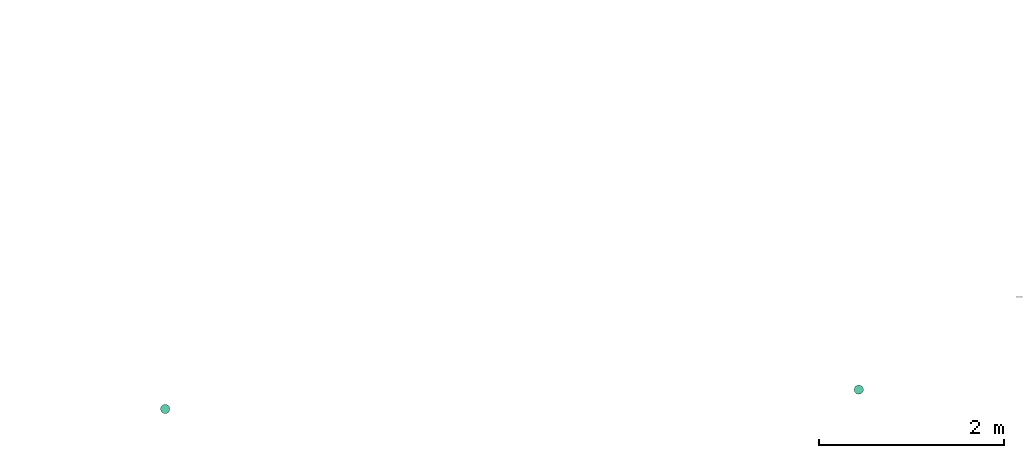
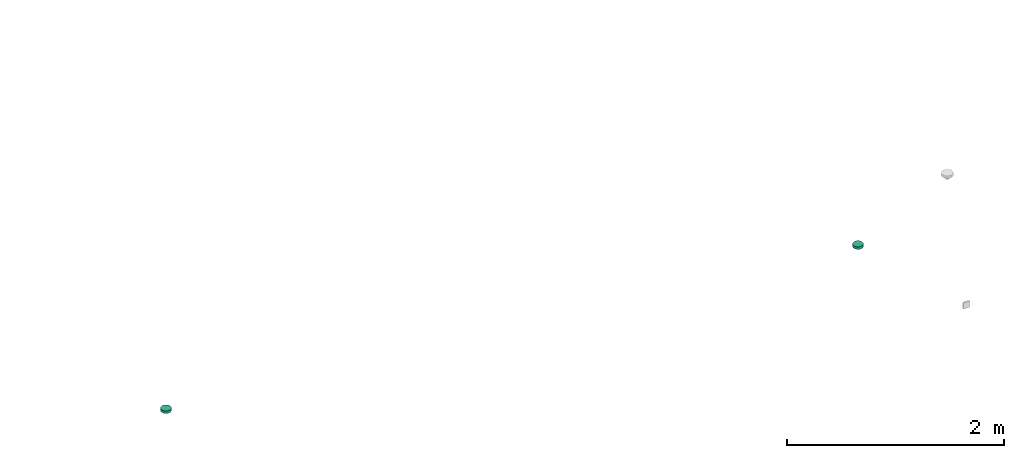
# One storey, part 1 of 10: 2 distribution control elements.
"""IFC2X3 building model written with IfcOpenShell, lengths in millimetres."""

from ifc_helpers import new_model, entity, si_unit, converted_unit, derived_unit, direction, frame, origin_with_axes, place, context, subcontext, project, spatial, open_shell, surface_model, source, transform, mapped, type_object, element, save


model = new_model("IFC2X3")

# Units and contexts
model_context = context("Model", 3, precision=0.01, world=frame((0.0, 4.29681676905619e-09, 0.0)), true_north=direction((4.01073788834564e-13, 1.0)))
plan_context = context("Plan", 3, precision=0.01, world=frame((0.0, 4.29681676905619e-09, 0.0)), true_north=direction((4.01073788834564e-13, 1.0)))
body_context = subcontext(model_context, "Body", "Model", "MODEL_VIEW")
ifc_project = project(units=[converted_unit("PLANEANGLEUNIT", "DEGREE", entity("IfcPositiveLengthMeasure", 0.0174532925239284), si_unit("PLANEANGLEUNIT", "RADIAN"), dimensions=[0, 0, 0, 0, 0, 0, 0]), si_unit("AREAUNIT", "SQUARE_METRE"), si_unit("LENGTHUNIT", "METRE", prefix="MILLI"), si_unit("MASSUNIT", "GRAM", prefix="KILO"), si_unit("POWERUNIT", "WATT"), si_unit("PRESSUREUNIT", "PASCAL"), si_unit("FORCEUNIT", "NEWTON", prefix="KILO"), si_unit("ELECTRICVOLTAGEUNIT", "VOLT"), si_unit("ELECTRICCURRENTUNIT", "AMPERE"), si_unit("THERMODYNAMICTEMPERATUREUNIT", "DEGREE_CELSIUS"), si_unit("TIMEUNIT", "SECOND"), si_unit("VOLUMEUNIT", "CUBIC_METRE"), derived_unit("LINEARVELOCITYUNIT", [(si_unit("LENGTHUNIT", "METRE"), 1), (si_unit("TIMEUNIT", "SECOND"), -1)]), derived_unit("VOLUMETRICFLOWRATEUNIT", [(si_unit("VOLUMEUNIT", "CUBIC_METRE"), 1), (si_unit("TIMEUNIT", "SECOND"), -1)]), derived_unit("THERMALTRANSMITTANCEUNIT", [(si_unit("POWERUNIT", "WATT"), 1), (si_unit("THERMODYNAMICTEMPERATUREUNIT", "KELVIN"), -1), (si_unit("AREAUNIT", "SQUARE_METRE"), -1)]), derived_unit("SOUNDPRESSUREUNIT", [(si_unit("PRESSUREUNIT", "PASCAL"), 1)])], contexts=[model_context, plan_context])

# Site, building, storey
site_placement = place(None, frame((0.0, -4.29681676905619e-09, 0.0), z_axis=(0.0, 0.0, 1.0), x_axis=(1.0, 0.0, 0.0)))
site = spatial("IfcSite", under=ifc_project, at=site_placement, Name="ENGM", CompositionType="ELEMENT")
building_placement = place(site_placement, frame((0.0, 4.29681676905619e-09, 0.0), z_axis=(0.0, 0.0, 1.0), x_axis=(1.0, 0.0, 0.0)))
building = spatial("IfcBuilding", under=site, at=building_placement, Name="TS", CompositionType="ELEMENT")
storey_placement = place(building_placement, frame((0.0, 0.0, 210900.0), z_axis=(0.0, 0.0, 1.0), x_axis=(1.0, 0.0, 0.0)))
storey = spatial("IfcBuildingStorey", under=building, at=storey_placement, Name="Nivå F", CompositionType="ELEMENT", Elevation=210900.0)

# Distribution control elements
alarm_type = type_object("IfcAlarmType", Name="Standard", PredefinedType="NOTDEFINED")
shared_shape = source(origin_with_axes(), body_context, "Body", "SurfaceModel", [
    surface_model("IfcShellBasedSurfaceModel", [(-25.0, 43.30127, -28.9), (-35.35534, 35.35534, -28.9), (-18.0, 31.17691, -28.9), (-25.45584, 25.45584, -28.9), (-9.31749, 34.77333, -28.9), (-12.94095, 48.29629, -28.9), (0.0, 36.0, -28.9), (0.0, 50.0, -28.9), (-34.77333, 9.31749, -28.9), (-43.30127, 25.0, -28.9), (-48.29629, 12.94095, -28.9), (-36.0, 0.0, -28.9), (-50.0, 0.0, -28.9), (-31.17691, 18.0, -28.9), (9.31749, 34.77333, -28.9), (12.94095, 48.29629, -28.9), (18.0, 31.17691, -28.9), (35.35534, 35.35534, -28.9), (25.0, 43.30127, -28.9), (25.45584, 25.45584, -28.9), (31.17691, 18.0, -28.9), (34.77333, 9.31749, -28.9), (43.30127, 25.0, -28.9), (48.29629, 12.94095, -28.9), (36.0, 0.0, -28.9), (50.0, 0.0, -28.9), (-34.77333, -9.31749, -28.9), (-48.29629, -12.94095, -28.9), (-31.17691, -18.0, -28.9), (-43.30127, -25.0, -28.9), (-25.45584, -25.45584, -28.9), (-35.35534, -35.35534, -28.9), (-18.0, -31.17691, -28.9), (-25.0, -43.30127, -28.9), (-9.31749, -34.77333, -28.9), (-12.94095, -48.29629, -28.9), (0.0, -36.0, -28.9), (0.0, -50.0, -28.9), (43.30127, -25.0, -28.9), (31.17691, -18.0, -28.9), (35.35534, -35.35534, -28.9), (34.77333, -9.31749, -28.9), (48.29629, -12.94095, -28.9), (25.45584, -25.45584, -28.9), (9.31749, -34.77333, -28.9), (12.94095, -48.29629, -28.9), (18.0, -31.17691, -28.9), (25.0, -43.30127, -28.9), (-25.0, -43.30127, -29.1), (-35.35534, -35.35534, -29.1), (-18.0, -31.17691, -29.1), (-25.45584, -25.45584, -29.1), (-9.31749, -34.77333, -29.1), (-12.94095, -48.29629, -29.1), (0.0, -36.0, -29.1), (0.0, -50.0, -29.1), (-34.77333, -9.31749, -29.1), (-43.30127, -25.0, -29.1), (-48.29629, -12.94095, -29.1), (-36.0, 0.0, -29.1), (-50.0, 0.0, -29.1), (-31.17691, -18.0, -29.1), (9.31749, -34.77333, -29.1), (12.94095, -48.29629, -29.1), (18.0, -31.17691, -29.1), (35.35534, -35.35534, -29.1), (25.0, -43.30127, -29.1), (25.45584, -25.45584, -29.1), (31.17691, -18.0, -29.1), (34.77333, -9.31749, -29.1), (43.30127, -25.0, -29.1), (48.29629, -12.94095, -29.1), (36.0, 0.0, -29.1), (50.0, 0.0, -29.1), (-34.77333, 9.31749, -29.1), (-48.29629, 12.94095, -29.1), (-31.17691, 18.0, -29.1), (-43.30127, 25.0, -29.1), (-25.45584, 25.45584, -29.1), (-35.35534, 35.35534, -29.1), (-18.0, 31.17691, -29.1), (-25.0, 43.30127, -29.1), (-9.31749, 34.77333, -29.1), (-12.94095, 48.29629, -29.1), (0.0, 36.0, -29.1), (0.0, 50.0, -29.1), (43.30127, 25.0, -29.1), (31.17691, 18.0, -29.1), (35.35534, 35.35534, -29.1), (34.77333, 9.31749, -29.1), (48.29629, 12.94095, -29.1), (25.45584, 25.45584, -29.1), (9.31749, 34.77333, -29.1), (12.94095, 48.29629, -29.1), (18.0, 31.17691, -29.1), (25.0, 43.30127, -29.1), (6.47048, -24.14815, -44.9), (12.5, -21.65064, -44.9), (17.67767, -17.67767, -44.9), (24.14815, -6.47048, -44.9), (-24.14815, -6.47048, -44.9), (21.65064, -12.5, -44.9), (-21.65064, 12.5, -44.9), (0.0, -25.0, -44.9), (-12.5, -21.65064, -44.9), (-6.47048, -24.14815, -44.9), (-17.67767, -17.67767, -44.9), (-21.65064, -12.5, -44.9), (25.0, 0.0, -44.9), (24.14815, 6.47048, -44.9), (21.65064, 12.5, -44.9), (17.67767, 17.67767, -44.9), (12.5, 21.65064, -44.9), (6.47048, 24.14815, -44.9), (0.0, 25.0, -44.9), (-25.0, 0.0, -44.9), (-24.14815, 6.47048, -44.9), (-12.5, 21.65064, -44.9), (-17.67767, 17.67767, -44.9), (-6.47048, 24.14815, -44.9), (0.0, 25.0, -45.1), (6.47048, 24.14815, -45.1), (12.5, 21.65064, -45.1), (-21.65064, 12.5, -45.1), (17.67767, 17.67767, -45.1), (21.65064, 12.5, -45.1), (24.14815, 6.47048, -45.1), (-12.5, 21.65064, -45.1), (-17.67767, 17.67767, -45.1), (-6.47048, 24.14815, -45.1), (-25.0, 0.0, -45.1), (-24.14815, 6.47048, -45.1), (-24.14815, -6.47048, -45.1), (24.14815, -6.47048, -45.1), (6.47048, -24.14815, -45.1), (21.65064, -12.5, -45.1), (17.67767, -17.67767, -45.1), (12.5, -21.65064, -45.1), (-12.5, -21.65064, -45.1), (-17.67767, -17.67767, -45.1), (-21.65064, -12.5, -45.1), (0.0, -25.0, -45.1), (-6.47048, -24.14815, -45.1), (25.0, 0.0, -45.1), (-1.46739, 34.60682, -29.0), (0.0, 34.8, -29.0), (0.0, 35.0, -29.0), (-34.60682, 1.46739, -29.0), (-35.0, 0.0, -29.0), (-34.8, 0.0, -29.0), (-17.5, 30.31089, -29.0), (-18.5742, 29.23669, -29.0), (-17.4, 30.13768, -29.0), (-24.60732, -24.60732, -29.0), (-18.5742, -29.23669, -29.0), (-29.23669, -18.5742, -29.0), (34.8, 0.0, -29.0), (34.60682, -1.46739, -29.0), (35.0, 0.0, -29.0), (17.4, 30.13768, -29.0), (17.5, 30.31089, -29.0), (16.03261, 30.70407, -29.0), (30.13768, 17.4, -29.0), (30.31089, 17.5, -29.0), (29.23669, 18.5742, -29.0), (34.60682, 1.46739, -29.0), (33.61422, -9.0069, -29.0), (30.70407, -16.03261, -29.0), (-33.61422, -9.0069, -29.0), (-30.70407, -16.03261, -29.0), (-34.60682, -1.46739, -29.0), (-30.13768, -17.4, -29.0), (-30.31089, -17.5, -29.0), (-17.5, -30.31089, -29.0), (-17.4, -30.13768, -29.0), (-1.46739, -34.60682, -29.0), (0.0, -35.0, -29.0), (0.0, -34.8, -29.0), (-16.03261, -30.70407, -29.0), (-9.0069, -33.61422, -29.0), (1.46739, -34.60682, -29.0), (30.13768, -17.4, -29.0), (29.23669, -18.5742, -29.0), (30.31089, -17.5, -29.0), (24.60732, -24.60732, -29.0), (18.5742, -29.23669, -29.0), (9.0069, -33.61422, -29.0), (16.03261, -30.70407, -29.0), (-30.13768, 17.4, -29.0), (-30.31089, 17.5, -29.0), (-30.70407, 16.03261, -29.0), (17.4, -30.13768, -29.0), (17.5, -30.31089, -29.0), (-33.61422, 9.0069, -29.0), (-29.23669, 18.5742, -29.0), (-24.60732, 24.60732, -29.0), (-16.03261, 30.70407, -29.0), (-9.0069, 33.61422, -29.0), (1.46739, 34.60682, -29.0), (9.0069, 33.61422, -29.0), (18.5742, 29.23669, -29.0), (24.60732, 24.60732, -29.0), (30.70407, 16.03261, -29.0), (33.61422, 9.0069, -29.0), (23.00389, 18.55381, -38.25), (14.9, 25.80756, -38.25), (21.07178, 21.07178, -38.25), (29.66376, 1.03484, -38.25), (30.0, 0.0, -38.25), (29.8, 0.0, -38.25), (24.27051, 17.63356, -38.25), (24.68215, 16.36666, -38.25), (10.52665, 27.61906, -38.25), (28.78459, 7.71281, -38.25), (-10.52665, 27.61906, -38.25), (-23.00389, 18.55381, -38.25), (-14.9, 25.80756, -38.25), (8.32335, 28.5317, -38.25), (0.0, 29.8, -38.25), (7.71281, 28.78459, -38.25), (-8.32335, 28.5317, -38.25), (-24.68215, 16.36666, -38.25), (-28.78459, 7.71281, -38.25), (-25.80756, 14.9, -38.25), (-9.27051, 28.5317, -38.25), (-29.66376, 1.03484, -38.25), (-29.8, 0.0, -38.25), (-30.0, 0.0, -38.25), (-28.78459, -7.71281, -38.25), (-24.68215, -16.36666, -38.25), (-25.80756, -14.9, -38.25), (29.66376, -1.03484, -38.25), (-7.71281, 28.78459, -38.25), (25.80756, 14.9, -38.25), (14.9, -25.80756, -38.25), (10.52665, -27.61906, -38.25), (23.00389, -18.55381, -38.25), (28.78459, -7.71281, -38.25), (24.68215, -16.36666, -38.25), (0.0, -29.8, -38.25), (-7.71281, -28.78459, -38.25), (-8.32335, -28.5317, -38.25), (8.32335, -28.5317, -38.25), (9.27051, 28.5317, -38.25), (-29.66376, -1.03484, -38.25), (21.07178, -21.07178, -38.25), (-23.00389, -18.55381, -38.25), (-24.27051, -17.63356, -38.25), (-9.27051, -28.5317, -38.25), (-10.52665, -27.61906, -38.25), (-21.07178, -21.07178, -38.25), (-14.9, -25.80756, -38.25), (9.27051, -28.5317, -38.25), (7.71281, -28.78459, -38.25), (24.27051, -17.63356, -38.25), (25.80756, -14.9, -38.25), (-21.07178, 21.07178, -38.25), (-24.27051, 17.63356, -38.25), (33.28589, -6.39713, -29.0), (27.13526, -8.81678, -38.25), (-16.77051, -23.08263, -38.25), (-23.90544, -23.90544, -29.0), (-27.13526, -8.81678, -38.25), (-33.28589, -6.39713, -29.0), (16.77051, -23.08263, -38.25), (8.75, -32.65544, -29.0), (0.0, -28.5317, -38.25), (23.90544, -23.90544, -29.0), (-8.75, -32.65544, -29.0), (-33.28589, 6.39713, -29.0), (-27.13526, 8.81678, -38.25), (16.77051, 23.08263, -38.25), (23.90544, 23.90544, -29.0), (27.13526, 8.81678, -38.25), (33.28589, 6.39713, -29.0), (-16.77051, 23.08263, -38.25), (-8.75, 32.65544, -29.0), (0.0, 28.5317, -38.25), (-23.90544, 23.90544, -29.0), (8.75, 32.65544, -29.0), (12.4, 21.47743, -45.0), (17.53625, 17.53625, -45.0), (19.07577, 15.5299, -45.0), (20.22543, 14.69463, -45.0), (20.59905, 13.54472, -45.0), (24.66376, 1.03484, -45.0), (25.0, 0.0, -45.0), (24.8, 0.0, -45.0), (8.88673, 22.93267, -45.0), (23.95496, 6.41871, -45.0), (-8.88673, 22.93267, -45.0), (-19.07577, 15.5299, -45.0), (-12.4, 21.47743, -45.0), (6.84976, 23.77641, -45.0), (0.0, 24.8, -45.0), (6.41871, 23.95496, -45.0), (-7.72542, 23.77641, -45.0), (-6.84976, 23.77641, -45.0), (-21.47743, 12.4, -45.0), (-20.59905, 13.54472, -45.0), (-23.95496, 6.41871, -45.0), (-25.0, 0.0, -45.0), (-24.66376, 1.03484, -45.0), (-24.8, 0.0, -45.0), (-23.95496, -6.41871, -45.0), (-20.59905, -13.54472, -45.0), (-21.47743, -12.4, -45.0), (-6.41871, 23.95496, -45.0), (24.66376, -1.03484, -45.0), (21.47743, 12.4, -45.0), (12.4, -21.47743, -45.0), (8.88673, -22.93267, -45.0), (19.07577, -15.5299, -45.0), (23.95496, -6.41871, -45.0), (20.59905, -13.54472, -45.0), (0.0, -24.8, -45.0), (-6.41871, -23.95496, -45.0), (-6.84976, -23.77641, -45.0), (7.72542, -23.77641, -45.0), (6.84976, -23.77641, -45.0), (7.72542, 23.77641, -45.0), (-24.66376, -1.03484, -45.0), (17.53625, -17.53625, -45.0), (-20.22543, -14.69463, -45.0), (-19.07577, -15.5299, -45.0), (-8.88673, -22.93267, -45.0), (-7.72542, -23.77641, -45.0), (-17.53625, -17.53625, -45.0), (-12.4, -21.47743, -45.0), (6.41871, -23.95496, -45.0), (20.22543, -14.69463, -45.0), (21.47743, -12.4, -45.0), (-17.53625, 17.53625, -45.0), (-20.22543, 14.69463, -45.0), (-22.61271, -7.34732, -45.0), (-13.97542, -19.23552, -45.0), (0.0, -23.77641, -45.0), (21.83768, -9.73262, -45.0), (13.97542, -19.23552, -45.0), (23.41884, -4.86631, -45.0), (22.61271, 7.34732, -45.0), (13.97542, 19.23552, -45.0), (0.0, 23.77641, -45.0), (-21.83768, 9.73262, -45.0), (-13.97542, 19.23552, -45.0), (-23.41884, 4.86631, -45.0), (12.94095, -48.29629, 0.0), (25.0, -43.30127, 0.0), (35.35534, -35.35534, 0.0), (48.29629, -12.94095, 0.0), (-48.29629, -12.94095, 0.0), (43.30127, -25.0, 0.0), (-43.30127, 25.0, 0.0), (0.0, -50.0, 0.0), (-25.0, -43.30127, 0.0), (-12.94095, -48.29629, 0.0), (-35.35534, -35.35534, 0.0), (-43.30127, -25.0, 0.0), (50.0, 0.0, 0.0), (48.29629, 12.94095, 0.0), (43.30127, 25.0, 0.0), (35.35534, 35.35534, 0.0), (25.0, 43.30127, 0.0), (12.94095, 48.29629, 0.0), (0.0, 50.0, 0.0), (-50.0, 0.0, 0.0), (-48.29629, 12.94095, 0.0), (-25.0, 43.30127, 0.0), (-35.35534, 35.35534, 0.0), (-12.94095, 48.29629, 0.0), (0.0, 50.0, -29.0), (12.94095, 48.29629, -29.0), (25.0, 43.30127, -29.0), (-43.30127, 25.0, -29.0), (35.35534, 35.35534, -29.0), (43.30127, 25.0, -29.0), (48.29629, 12.94095, -29.0), (-25.0, 43.30127, -29.0), (-35.35534, 35.35534, -29.0), (-12.94095, 48.29629, -29.0), (-50.0, 0.0, -29.0), (-48.29629, 12.94095, -29.0), (-48.29629, -12.94095, -29.0), (48.29629, -12.94095, -29.0), (12.94095, -48.29629, -29.0), (43.30127, -25.0, -29.0), (35.35534, -35.35534, -29.0), (25.0, -43.30127, -29.0), (-25.0, -43.30127, -29.0), (-35.35534, -35.35534, -29.0), (-43.30127, -25.0, -29.0), (0.0, -50.0, -29.0), (-12.94095, -48.29629, -29.0), (50.0, 0.0, -29.0)], [open_shell([[[0, 1, 2]], [[2, 1, 3]], [[0, 2, 4]], [[5, 4, 6]], [[4, 5, 0]], [[5, 6, 7]], [[8, 9, 10]], [[11, 10, 12]], [[8, 10, 11]], [[13, 3, 9]], [[8, 13, 9]], [[9, 3, 1]], [[7, 14, 15]], [[14, 7, 6]], [[15, 14, 16]], [[17, 18, 19]], [[16, 18, 15]], [[19, 18, 16]], [[20, 21, 22]], [[20, 22, 17]], [[21, 23, 22]], [[23, 21, 24]], [[23, 24, 25]], [[20, 17, 19]], [[26, 12, 27]], [[28, 27, 29]], [[28, 26, 27]], [[30, 28, 29]], [[29, 31, 30]], [[32, 31, 33]], [[31, 32, 30]], [[32, 33, 34]], [[34, 35, 36]], [[35, 34, 33]], [[36, 35, 37]], [[38, 39, 40]], [[41, 39, 42]], [[41, 42, 25]], [[42, 39, 38]], [[39, 43, 40]], [[25, 24, 41]], [[44, 37, 45]], [[37, 44, 36]], [[44, 45, 46]], [[47, 40, 43]], [[47, 46, 45]], [[47, 43, 46]], [[26, 11, 12]], [[48, 49, 50]], [[50, 49, 51]], [[48, 50, 52]], [[53, 52, 54]], [[52, 53, 48]], [[53, 54, 55]], [[56, 57, 58]], [[59, 58, 60]], [[56, 58, 59]], [[61, 51, 57]], [[56, 61, 57]], [[57, 51, 49]], [[55, 62, 63]], [[62, 55, 54]], [[63, 62, 64]], [[65, 66, 67]], [[64, 66, 63]], [[67, 66, 64]], [[68, 69, 70]], [[68, 70, 65]], [[69, 71, 70]], [[71, 69, 72]], [[71, 72, 73]], [[68, 65, 67]], [[74, 60, 75]], [[76, 75, 77]], [[76, 74, 75]], [[78, 76, 77]], [[77, 79, 78]], [[80, 79, 81]], [[79, 80, 78]], [[80, 81, 82]], [[82, 83, 84]], [[83, 82, 81]], [[84, 83, 85]], [[86, 87, 88]], [[89, 87, 90]], [[89, 90, 73]], [[90, 87, 86]], [[87, 91, 88]], [[73, 72, 89]], [[92, 85, 93]], [[85, 92, 84]], [[92, 93, 94]], [[95, 88, 91]], [[95, 94, 93]], [[95, 91, 94]], [[74, 59, 60]], [[11, 59, 8]], [[8, 74, 13]], [[2, 3, 78]], [[76, 3, 13]], [[4, 2, 80]], [[74, 76, 13]], [[8, 59, 74]], [[84, 6, 82]], [[4, 80, 82]], [[80, 2, 78]], [[3, 76, 78]], [[4, 82, 6]], [[14, 92, 16]], [[16, 94, 19]], [[21, 20, 87]], [[91, 20, 19]], [[24, 21, 89]], [[92, 94, 16]], [[14, 84, 92]], [[21, 87, 89]], [[87, 20, 91]], [[19, 94, 91]], [[24, 89, 72]], [[6, 84, 14]], [[24, 72, 41]], [[41, 69, 39]], [[46, 43, 67]], [[68, 43, 39]], [[44, 46, 64]], [[69, 68, 39]], [[41, 72, 69]], [[54, 36, 62]], [[44, 64, 62]], [[64, 46, 67]], [[43, 68, 67]], [[44, 62, 36]], [[34, 52, 32]], [[32, 50, 30]], [[26, 28, 61]], [[51, 28, 30]], [[11, 26, 56]], [[52, 50, 32]], [[34, 54, 52]], [[26, 61, 56]], [[61, 28, 51]], [[30, 50, 51]], [[11, 56, 59]], [[36, 54, 34]], [[58, 27, 60]], [[57, 29, 58]], [[33, 49, 48]], [[57, 49, 31]], [[35, 48, 53]], [[58, 29, 27]], [[27, 12, 60]], [[35, 33, 48]], [[31, 49, 33]], [[31, 29, 57]], [[37, 35, 53]], [[53, 55, 37]], [[63, 45, 55]], [[66, 47, 63]], [[38, 65, 70]], [[66, 65, 40]], [[42, 70, 71]], [[66, 40, 47]], [[47, 45, 63]], [[25, 42, 71]], [[38, 70, 42]], [[38, 40, 65]], [[73, 25, 71]], [[55, 45, 37]], [[90, 23, 73]], [[86, 22, 90]], [[18, 88, 95]], [[86, 88, 17]], [[15, 95, 93]], [[90, 22, 23]], [[23, 25, 73]], [[15, 18, 95]], [[17, 88, 18]], [[17, 22, 86]], [[7, 15, 93]], [[93, 85, 7]], [[83, 5, 85]], [[81, 0, 83]], [[9, 79, 77]], [[81, 79, 1]], [[10, 77, 75]], [[81, 1, 0]], [[0, 5, 83]], [[12, 10, 75]], [[9, 77, 10]], [[9, 1, 79]], [[60, 12, 75]], [[85, 5, 7]], [[96, 97, 98]], [[96, 98, 99]], [[96, 99, 100]], [[99, 98, 101]], [[102, 100, 99]], [[103, 104, 105]], [[103, 96, 104]], [[106, 100, 107]], [[106, 104, 96]], [[100, 106, 96]], [[99, 108, 102]], [[109, 110, 111]], [[109, 111, 112]], [[112, 113, 114]], [[109, 112, 102]], [[102, 112, 114]], [[115, 102, 116]], [[100, 102, 115]], [[102, 117, 118]], [[117, 102, 119]], [[114, 119, 102]], [[102, 108, 109]], [[120, 121, 122]], [[123, 120, 122]], [[124, 125, 126]], [[124, 126, 122]], [[123, 122, 126]], [[127, 123, 128]], [[123, 127, 129]], [[123, 130, 131]], [[123, 129, 120]], [[123, 132, 130]], [[123, 126, 133]], [[132, 123, 133]], [[134, 133, 135]], [[136, 137, 134]], [[136, 134, 135]], [[138, 133, 134]], [[132, 139, 140]], [[132, 133, 139]], [[138, 141, 142]], [[139, 133, 138]], [[134, 141, 138]], [[133, 126, 143]], [[132, 100, 130]], [[140, 107, 132]], [[104, 139, 138]], [[140, 139, 106]], [[105, 138, 142]], [[132, 107, 100]], [[100, 115, 130]], [[105, 104, 138]], [[106, 139, 104]], [[106, 107, 140]], [[103, 105, 142]], [[142, 141, 103]], [[134, 96, 141]], [[137, 97, 134]], [[101, 136, 135]], [[137, 136, 98]], [[99, 135, 133]], [[137, 98, 97]], [[97, 96, 134]], [[108, 99, 133]], [[101, 135, 99]], [[101, 98, 136]], [[143, 108, 133]], [[141, 96, 103]], [[126, 109, 143]], [[125, 110, 126]], [[112, 124, 122]], [[125, 124, 111]], [[113, 122, 121]], [[126, 110, 109]], [[109, 108, 143]], [[113, 112, 122]], [[111, 124, 112]], [[111, 110, 125]], [[114, 113, 121]], [[121, 120, 114]], [[129, 119, 120]], [[127, 117, 129]], [[102, 128, 123]], [[127, 128, 118]], [[116, 123, 131]], [[127, 118, 117]], [[117, 119, 129]], [[115, 116, 131]], [[102, 123, 116]], [[102, 118, 128]], [[130, 115, 131]], [[120, 119, 114]], [[144, 145, 146]], [[147, 148, 149]], [[150, 151, 152]], [[153, 154, 155]], [[156, 157, 158]], [[159, 160, 161]], [[162, 163, 164]], [[156, 158, 165]], [[166, 157, 167]], [[168, 169, 170]], [[170, 149, 148]], [[171, 169, 172]], [[173, 174, 154]], [[175, 176, 177]], [[174, 173, 178]], [[155, 171, 172]], [[179, 175, 178]], [[180, 177, 176]], [[181, 182, 183]], [[181, 183, 167]], [[184, 182, 185]], [[186, 187, 180]], [[188, 189, 190]], [[191, 192, 185]], [[191, 187, 192]], [[193, 147, 190]], [[188, 194, 189]], [[195, 194, 151]], [[152, 196, 150]], [[197, 196, 144]], [[145, 198, 146]], [[199, 198, 161]], [[159, 200, 160]], [[201, 200, 164]], [[162, 202, 163]], [[203, 202, 165]], [[204, 205, 206]], [[207, 208, 209]], [[204, 210, 211]], [[205, 204, 212]], [[213, 207, 211]], [[214, 215, 216]], [[217, 218, 219]], [[218, 217, 220]], [[221, 222, 223]], [[220, 214, 224]], [[225, 226, 227]], [[228, 229, 230]], [[209, 208, 231]], [[218, 220, 232]], [[213, 211, 233]], [[234, 235, 236]], [[237, 238, 231]], [[239, 240, 241]], [[241, 242, 239]], [[243, 212, 217]], [[227, 226, 244]], [[234, 236, 245]], [[229, 246, 247]], [[241, 248, 249]], [[250, 246, 251]], [[228, 244, 229]], [[235, 252, 242]], [[239, 242, 253]], [[236, 238, 254]], [[238, 237, 255]], [[251, 246, 249]], [[216, 215, 256]], [[215, 221, 257]], [[222, 221, 225]], [[208, 158, 258]], [[183, 259, 258]], [[260, 261, 247]], [[172, 262, 247]], [[263, 227, 262]], [[192, 252, 264]], [[260, 248, 173]], [[261, 260, 173]], [[252, 265, 266]], [[227, 263, 148]], [[172, 263, 262]], [[258, 259, 208]], [[254, 267, 264]], [[268, 173, 248]], [[252, 192, 265]], [[192, 264, 267]], [[267, 254, 183]], [[259, 183, 254]], [[268, 266, 176]], [[265, 176, 266]], [[248, 266, 268]], [[172, 247, 261]], [[227, 148, 269]], [[189, 270, 269]], [[271, 272, 210]], [[163, 273, 210]], [[274, 208, 273]], [[150, 224, 275]], [[271, 243, 160]], [[272, 271, 160]], [[224, 276, 277]], [[208, 274, 158]], [[163, 274, 273]], [[269, 270, 227]], [[257, 278, 275]], [[279, 160, 243]], [[224, 150, 276]], [[150, 275, 278]], [[278, 257, 189]], [[270, 189, 257]], [[279, 277, 146]], [[276, 146, 277]], [[243, 277, 279]], [[163, 210, 272]], [[171, 230, 228]], [[168, 228, 226]], [[179, 240, 251]], [[174, 251, 250]], [[153, 250, 230]], [[168, 171, 228]], [[226, 149, 168]], [[251, 174, 179]], [[174, 250, 153]], [[230, 171, 153]], [[240, 179, 177]], [[177, 239, 240]], [[184, 245, 234]], [[191, 234, 253]], [[156, 209, 237]], [[166, 237, 255]], [[181, 255, 245]], [[239, 186, 253]], [[186, 191, 253]], [[177, 186, 239]], [[184, 181, 245]], [[191, 184, 234]], [[181, 166, 255]], [[166, 156, 237]], [[162, 233, 213]], [[203, 213, 209]], [[199, 219, 205]], [[159, 205, 206]], [[201, 206, 233]], [[203, 162, 213]], [[209, 156, 203]], [[205, 159, 199]], [[159, 206, 201]], [[233, 162, 201]], [[219, 199, 145]], [[145, 218, 219]], [[195, 256, 216]], [[152, 216, 232]], [[149, 226, 222]], [[193, 222, 223]], [[188, 223, 256]], [[218, 197, 232]], [[197, 152, 232]], [[145, 197, 218]], [[195, 188, 256]], [[152, 195, 216]], [[188, 193, 223]], [[193, 149, 222]], [[215, 216, 256]], [[221, 222, 225]], [[225, 227, 226]], [[257, 221, 215]], [[216, 215, 214]], [[212, 204, 205]], [[220, 218, 232]], [[218, 220, 217]], [[217, 212, 243]], [[233, 211, 213]], [[208, 207, 209]], [[237, 238, 255]], [[252, 235, 242]], [[218, 217, 219]], [[227, 244, 226]], [[222, 221, 223]], [[228, 229, 244]], [[239, 253, 242]], [[246, 251, 249]], [[249, 248, 241]], [[231, 238, 237]], [[208, 209, 231]], [[251, 246, 250]], [[254, 238, 236]], [[236, 234, 245]], [[214, 220, 224]], [[242, 241, 239]], [[239, 241, 240]], [[246, 229, 247]], [[230, 229, 228]], [[234, 236, 235]], [[205, 204, 206]], [[204, 211, 210]], [[213, 211, 207]], [[280, 281, 282]], [[282, 283, 284]], [[285, 286, 287]], [[280, 282, 288]], [[289, 285, 284]], [[290, 291, 292]], [[293, 294, 295]], [[290, 296, 297]], [[294, 293, 297]], [[298, 299, 300]], [[301, 302, 303]], [[304, 305, 306]], [[294, 297, 307]], [[308, 287, 286]], [[289, 284, 309]], [[310, 311, 312]], [[313, 314, 308]], [[315, 316, 317]], [[311, 318, 319]], [[293, 320, 288]], [[301, 303, 321]], [[310, 312, 322]], [[323, 305, 324]], [[325, 317, 326]], [[327, 324, 328]], [[304, 321, 305]], [[317, 319, 315]], [[315, 319, 329]], [[312, 314, 330]], [[331, 314, 313]], [[328, 324, 325]], [[292, 291, 332]], [[291, 299, 333]], [[300, 299, 302]], [[262, 301, 334]], [[334, 323, 247]], [[248, 335, 326]], [[301, 262, 227]], [[334, 247, 262]], [[260, 323, 335]], [[266, 248, 326]], [[336, 252, 266]], [[252, 336, 318]], [[323, 260, 247]], [[248, 260, 335]], [[254, 337, 259]], [[318, 264, 252]], [[338, 254, 264]], [[339, 286, 208]], [[264, 318, 338]], [[259, 339, 208]], [[338, 330, 254]], [[266, 326, 336]], [[259, 337, 339]], [[337, 254, 330]], [[273, 286, 340]], [[340, 283, 210]], [[243, 341, 320]], [[286, 273, 208]], [[340, 210, 273]], [[271, 283, 341]], [[277, 243, 320]], [[342, 224, 277]], [[224, 342, 296]], [[283, 271, 210]], [[243, 271, 341]], [[257, 343, 270]], [[296, 275, 224]], [[344, 257, 275]], [[345, 301, 227]], [[275, 296, 344]], [[270, 345, 227]], [[344, 333, 257]], [[277, 320, 342]], [[270, 343, 345]], [[343, 257, 333]], [[230, 306, 304]], [[228, 304, 303]], [[240, 316, 328]], [[251, 328, 327]], [[250, 327, 306]], [[228, 230, 304]], [[303, 226, 228]], [[328, 251, 240]], [[251, 327, 250]], [[306, 230, 250]], [[316, 240, 239]], [[239, 315, 316]], [[245, 322, 310]], [[234, 310, 329]], [[209, 287, 313]], [[237, 313, 331]], [[255, 331, 322]], [[315, 253, 329]], [[253, 234, 329]], [[239, 253, 315]], [[255, 322, 245]], [[234, 245, 310]], [[331, 255, 237]], [[237, 209, 313]], [[233, 309, 289]], [[213, 289, 287]], [[219, 295, 280]], [[205, 280, 281]], [[206, 281, 309]], [[213, 233, 289]], [[287, 209, 213]], [[280, 205, 219]], [[205, 281, 206]], [[309, 233, 206]], [[295, 219, 218]], [[218, 294, 295]], [[256, 332, 292]], [[216, 292, 307]], [[226, 303, 300]], [[222, 300, 298]], [[223, 298, 332]], [[294, 232, 307]], [[232, 216, 307]], [[218, 232, 294]], [[223, 332, 256]], [[216, 256, 292]], [[298, 223, 222]], [[222, 226, 300]], [[346, 347, 348]], [[346, 348, 349]], [[346, 349, 350]], [[349, 348, 351]], [[352, 350, 349]], [[353, 354, 355]], [[353, 346, 354]], [[356, 350, 357]], [[356, 354, 346]], [[350, 356, 346]], [[349, 358, 352]], [[359, 360, 361]], [[359, 361, 362]], [[362, 363, 364]], [[359, 362, 352]], [[352, 362, 364]], [[365, 352, 366]], [[350, 352, 365]], [[352, 367, 368]], [[367, 352, 369]], [[364, 369, 352]], [[352, 358, 359]], [[370, 371, 372]], [[373, 370, 372]], [[374, 375, 376]], [[374, 376, 372]], [[373, 372, 376]], [[377, 373, 378]], [[373, 377, 379]], [[373, 380, 381]], [[373, 379, 370]], [[373, 382, 380]], [[373, 376, 383]], [[382, 373, 383]], [[384, 383, 385]], [[386, 387, 384]], [[386, 384, 385]], [[388, 383, 384]], [[382, 389, 390]], [[382, 383, 389]], [[388, 391, 392]], [[389, 383, 388]], [[384, 391, 388]], [[383, 376, 393]], [[382, 350, 380]], [[390, 357, 382]], [[354, 389, 388]], [[390, 389, 356]], [[355, 388, 392]], [[382, 357, 350]], [[350, 365, 380]], [[355, 354, 388]], [[356, 389, 354]], [[356, 357, 390]], [[353, 355, 392]], [[392, 391, 353]], [[384, 346, 391]], [[387, 347, 384]], [[351, 386, 385]], [[387, 386, 348]], [[349, 385, 383]], [[387, 348, 347]], [[347, 346, 384]], [[358, 349, 383]], [[351, 385, 349]], [[351, 348, 386]], [[393, 358, 383]], [[391, 346, 353]], [[376, 359, 393]], [[375, 360, 376]], [[362, 374, 372]], [[375, 374, 361]], [[363, 372, 371]], [[376, 360, 359]], [[359, 358, 393]], [[363, 362, 372]], [[361, 374, 362]], [[361, 360, 375]], [[364, 363, 371]], [[371, 370, 364]], [[369, 370, 379]], [[367, 379, 377]], [[352, 373, 381]], [[366, 381, 380]], [[379, 367, 369]], [[367, 377, 378]], [[367, 378, 368]], [[368, 378, 352]], [[352, 378, 373]], [[352, 381, 366]], [[380, 365, 366]], [[370, 369, 364]]])]),
])
for number, where, z_axis, x_axis, name in (
    (1, (533793.77251, 442015.14805, 2900.0), (0.0, 0.0, 1.0), (1.0, 0.0, 0.0), "Standard"),
    (2, (526306.96771, 441806.76548, 3800.0), (0.0, 0.0, 1.0), (1.0, 0.0, 0.0), "Standard"),
):
    element("IfcDistributionControlElement", number, at=place(storey_placement, frame(where, z_axis=z_axis, x_axis=x_axis)), inside=storey, type_object=alarm_type, Name=name, context=body_context, shape_type="MappedRepresentation", body=[
        mapped(shared_shape, transform((0.0, 0.0, 0.0), scale=1.0)),
    ])

save(model, "model.ifc")
